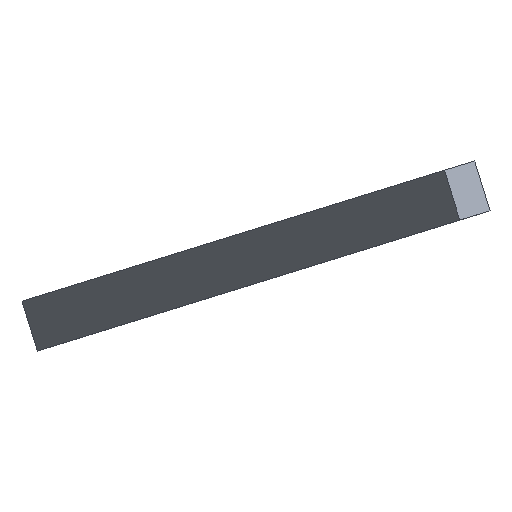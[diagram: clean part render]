
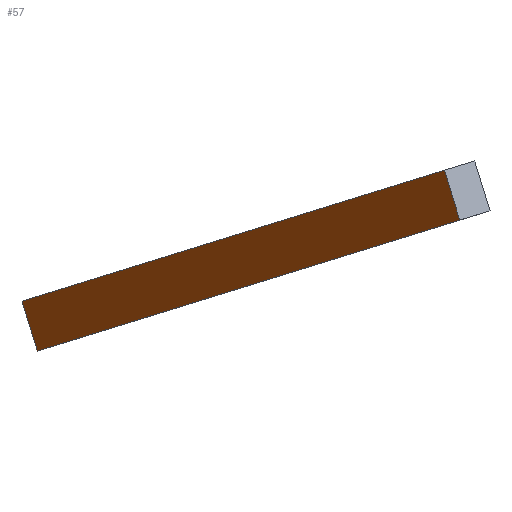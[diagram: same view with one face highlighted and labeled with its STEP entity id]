
A CAD part, top view. The second image highlights one B-rep face of the part: STEP entity #57.
In plain terms, the highlighted planar face has unit normal (-0.867, -0.265, 0.423).
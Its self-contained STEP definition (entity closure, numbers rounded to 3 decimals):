
#32 = VERTEX_POINT('',#33);
#33 = CARTESIAN_POINT('',(139.888,-86.134,
    -1081.313));
#39 = EDGE_CURVE('',#40,#32,#42,.T.);
#40 = VERTEX_POINT('',#41);
#41 = CARTESIAN_POINT('',(382.379,-11.997,
    -537.528));
#42 = LINE('',#43,#44);
#43 = CARTESIAN_POINT('',(382.379,-11.997,
    -537.528));
#44 = VECTOR('',#45,1.);
#45 = DIRECTION('',(-0.404,-0.124,-0.906));
#57 = ADVANCED_FACE('',(#58),#83,.F.);
#58 = FACE_BOUND('',#59,.F.);
#59 = EDGE_LOOP('',(#60,#61,#69,#77));
#60 = ORIENTED_EDGE('',*,*,#39,.T.);
#61 = ORIENTED_EDGE('',*,*,#62,.T.);
#62 = EDGE_CURVE('',#32,#63,#65,.T.);
#63 = VERTEX_POINT('',#64);
#64 = CARTESIAN_POINT('',(131.117,-57.445,
    -1081.313));
#65 = LINE('',#66,#67);
#66 = CARTESIAN_POINT('',(139.888,-86.134,
    -1081.313));
#67 = VECTOR('',#68,1.);
#68 = DIRECTION('',(-0.292,0.956,0.)
  );
#69 = ORIENTED_EDGE('',*,*,#70,.F.);
#70 = EDGE_CURVE('',#71,#63,#73,.T.);
#71 = VERTEX_POINT('',#72);
#72 = CARTESIAN_POINT('',(373.608,16.692,
    -537.528));
#73 = LINE('',#74,#75);
#74 = CARTESIAN_POINT('',(373.608,16.692,
    -537.528));
#75 = VECTOR('',#76,1.);
#76 = DIRECTION('',(-0.404,-0.124,-0.906));
#77 = ORIENTED_EDGE('',*,*,#78,.F.);
#78 = EDGE_CURVE('',#40,#71,#79,.T.);
#79 = LINE('',#80,#81);
#80 = CARTESIAN_POINT('',(382.379,-11.997,
    -537.528));
#81 = VECTOR('',#82,1.);
#82 = DIRECTION('',(-0.292,0.956,0.)
  );
#83 = PLANE('',#84);
#84 = AXIS2_PLACEMENT_3D('',#85,#86,#87);
#85 = CARTESIAN_POINT('',(382.379,-11.997,
    -537.528));
#86 = DIRECTION('',(0.867,0.265,-0.423));
#87 = DIRECTION('',(-0.292,0.956,0.)
  );
